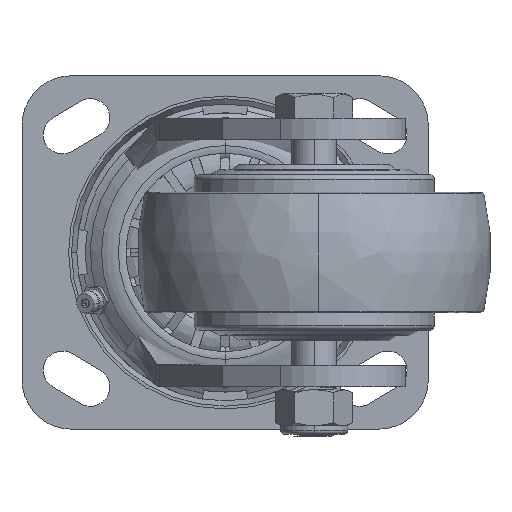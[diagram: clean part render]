
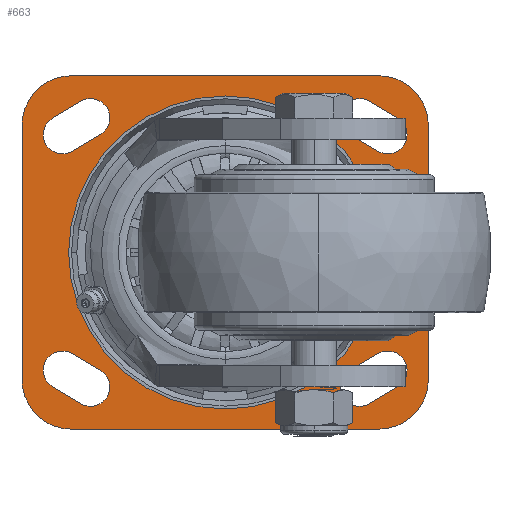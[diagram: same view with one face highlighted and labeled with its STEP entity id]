
A CAD part, front view. The second image highlights one B-rep face of the part: STEP entity #663.
In plain terms, the highlighted planar face has unit normal (0, -1, 0).
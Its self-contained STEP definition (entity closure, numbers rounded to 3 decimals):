
#38=CARTESIAN_POINT('',(0.,-4.5,0.));
#39=DIRECTION('',(0.,-1.,0.));
#40=DIRECTION('',(1.,0.,0.));
#41=AXIS2_PLACEMENT_3D('',#38,#39,#40);
#43=CARTESIAN_POINT('',(0.,-4.5,0.));
#44=DIRECTION('',(0.,-1.,0.));
#45=DIRECTION('',(-1.,0.,0.));
#46=AXIS2_PLACEMENT_3D('',#43,#44,#45);
#48=CARTESIAN_POINT('',(-43.5,-4.5,36.));
#49=DIRECTION('',(0.,-1.,0.));
#50=DIRECTION('',(0.,0.,1.));
#51=AXIS2_PLACEMENT_3D('',#48,#49,#50);
#53=DIRECTION('',(-1.,0.,0.));
#54=VECTOR('',#53,87.);
#55=CARTESIAN_POINT('',(43.5,-4.5,50.));
#56=LINE('',#55,#54);
#57=CARTESIAN_POINT('',(43.5,-4.5,36.));
#58=DIRECTION('',(0.,-1.,0.));
#59=DIRECTION('',(1.,0.,0.));
#60=AXIS2_PLACEMENT_3D('',#57,#58,#59);
#62=DIRECTION('',(0.,0.,1.));
#63=VECTOR('',#62,72.);
#64=CARTESIAN_POINT('',(57.5,-4.5,-36.));
#65=LINE('',#64,#63);
#66=CARTESIAN_POINT('',(43.5,-4.5,-36.));
#67=DIRECTION('',(0.,-1.,0.));
#68=DIRECTION('',(0.,0.,-1.));
#69=AXIS2_PLACEMENT_3D('',#66,#67,#68);
#71=DIRECTION('',(1.,0.,0.));
#72=VECTOR('',#71,87.);
#73=CARTESIAN_POINT('',(-43.5,-4.5,-50.));
#74=LINE('',#73,#72);
#75=CARTESIAN_POINT('',(-43.5,-4.5,-36.));
#76=DIRECTION('',(0.,-1.,0.));
#77=DIRECTION('',(-1.,0.,0.));
#78=AXIS2_PLACEMENT_3D('',#75,#76,#77);
#80=DIRECTION('',(0.,0.,-1.));
#81=VECTOR('',#80,72.);
#82=CARTESIAN_POINT('',(-57.5,-4.5,36.));
#83=LINE('',#82,#81);
#84=CARTESIAN_POINT('',(-46.04,-4.5,-33.34));
#85=DIRECTION('',(0.,1.,0.));
#86=DIRECTION('',(-0.514,0.,-0.858));
#87=AXIS2_PLACEMENT_3D('',#84,#85,#86);
#89=DIRECTION('',(-0.858,0.,0.514));
#90=VECTOR('',#89,9.257);
#91=CARTESIAN_POINT('',(-40.902,-4.5,-42.774));
#92=LINE('',#91,#90);
#93=CARTESIAN_POINT('',(-38.1,-4.5,-38.1));
#94=DIRECTION('',(0.,1.,0.));
#95=DIRECTION('',(0.514,0.,0.858));
#96=AXIS2_PLACEMENT_3D('',#93,#94,#95);
#98=DIRECTION('',(0.858,0.,-0.514));
#99=VECTOR('',#98,9.257);
#100=CARTESIAN_POINT('',(-43.238,-4.5,-28.666));
#101=LINE('',#100,#99);
#102=CARTESIAN_POINT('',(-46.04,-4.5,33.34));
#103=DIRECTION('',(0.,-1.,0.));
#104=DIRECTION('',(-0.514,0.,0.858));
#105=AXIS2_PLACEMENT_3D('',#102,#103,#104);
#107=DIRECTION('',(0.858,0.,0.514));
#108=VECTOR('',#107,9.257);
#109=CARTESIAN_POINT('',(-43.238,-4.5,28.666));
#110=LINE('',#109,#108);
#111=CARTESIAN_POINT('',(-38.1,-4.5,38.1));
#112=DIRECTION('',(0.,-1.,0.));
#113=DIRECTION('',(0.514,0.,-0.858));
#114=AXIS2_PLACEMENT_3D('',#111,#112,#113);
#116=DIRECTION('',(-0.858,0.,-0.514));
#117=VECTOR('',#116,9.257);
#118=CARTESIAN_POINT('',(-40.902,-4.5,42.774));
#119=LINE('',#118,#117);
#120=CARTESIAN_POINT('',(46.04,-4.5,-33.34));
#121=DIRECTION('',(0.,-1.,0.));
#122=DIRECTION('',(0.514,0.,-0.858));
#123=AXIS2_PLACEMENT_3D('',#120,#121,#122);
#125=DIRECTION('',(-0.858,0.,-0.514));
#126=VECTOR('',#125,9.257);
#127=CARTESIAN_POINT('',(43.238,-4.5,-28.666));
#128=LINE('',#127,#126);
#129=CARTESIAN_POINT('',(38.1,-4.5,-38.1));
#130=DIRECTION('',(0.,-1.,0.));
#131=DIRECTION('',(-0.514,0.,0.858));
#132=AXIS2_PLACEMENT_3D('',#129,#130,#131);
#134=DIRECTION('',(0.858,0.,0.514));
#135=VECTOR('',#134,9.257);
#136=CARTESIAN_POINT('',(40.902,-4.5,-42.774));
#137=LINE('',#136,#135);
#138=CARTESIAN_POINT('',(46.04,-4.5,33.34));
#139=DIRECTION('',(0.,1.,0.));
#140=DIRECTION('',(0.514,0.,0.858));
#141=AXIS2_PLACEMENT_3D('',#138,#139,#140);
#143=DIRECTION('',(0.858,0.,-0.514));
#144=VECTOR('',#143,9.257);
#145=CARTESIAN_POINT('',(40.902,-4.5,42.774));
#146=LINE('',#145,#144);
#147=CARTESIAN_POINT('',(38.1,-4.5,38.1));
#148=DIRECTION('',(0.,1.,0.));
#149=DIRECTION('',(-0.514,0.,-0.858));
#150=AXIS2_PLACEMENT_3D('',#147,#148,#149);
#152=DIRECTION('',(-0.858,0.,0.514));
#153=VECTOR('',#152,9.257);
#154=CARTESIAN_POINT('',(43.238,-4.5,28.666));
#155=LINE('',#154,#153);
#482=CARTESIAN_POINT('',(-48.842,-4.5,-38.014));
#483=CARTESIAN_POINT('',(-43.238,-4.5,-28.666));
#484=VERTEX_POINT('',#482);
#485=VERTEX_POINT('',#483);
#486=CARTESIAN_POINT('',(-35.298,-4.5,-33.426));
#487=VERTEX_POINT('',#486);
#488=CARTESIAN_POINT('',(-40.902,-4.5,-42.774));
#489=VERTEX_POINT('',#488);
#490=CARTESIAN_POINT('',(-48.842,-4.5,38.014));
#491=CARTESIAN_POINT('',(-43.238,-4.5,28.666));
#492=VERTEX_POINT('',#490);
#493=VERTEX_POINT('',#491);
#494=CARTESIAN_POINT('',(-35.298,-4.5,33.426));
#495=VERTEX_POINT('',#494);
#496=CARTESIAN_POINT('',(-40.902,-4.5,42.774));
#497=VERTEX_POINT('',#496);
#498=CARTESIAN_POINT('',(48.842,-4.5,-38.014));
#499=CARTESIAN_POINT('',(43.238,-4.5,-28.666));
#500=VERTEX_POINT('',#498);
#501=VERTEX_POINT('',#499);
#502=CARTESIAN_POINT('',(35.298,-4.5,-33.426));
#503=VERTEX_POINT('',#502);
#504=CARTESIAN_POINT('',(40.902,-4.5,-42.774));
#505=VERTEX_POINT('',#504);
#506=CARTESIAN_POINT('',(48.842,-4.5,38.014));
#507=CARTESIAN_POINT('',(43.238,-4.5,28.666));
#508=VERTEX_POINT('',#506);
#509=VERTEX_POINT('',#507);
#510=CARTESIAN_POINT('',(35.298,-4.5,33.426));
#511=VERTEX_POINT('',#510);
#512=CARTESIAN_POINT('',(40.902,-4.5,42.774));
#513=VERTEX_POINT('',#512);
#514=CARTESIAN_POINT('',(-41.639,-4.5,0.));
#515=CARTESIAN_POINT('',(41.639,-4.5,0.));
#516=VERTEX_POINT('',#514);
#517=VERTEX_POINT('',#515);
#562=CARTESIAN_POINT('',(-43.5,-4.5,50.));
#563=CARTESIAN_POINT('',(-57.5,-4.5,36.));
#564=VERTEX_POINT('',#562);
#565=VERTEX_POINT('',#563);
#566=CARTESIAN_POINT('',(57.5,-4.5,36.));
#567=CARTESIAN_POINT('',(43.5,-4.5,50.));
#568=VERTEX_POINT('',#566);
#569=VERTEX_POINT('',#567);
#570=CARTESIAN_POINT('',(43.5,-4.5,-50.));
#571=CARTESIAN_POINT('',(57.5,-4.5,-36.));
#572=VERTEX_POINT('',#570);
#573=VERTEX_POINT('',#571);
#574=CARTESIAN_POINT('',(-57.5,-4.5,-36.));
#575=CARTESIAN_POINT('',(-43.5,-4.5,-50.));
#576=VERTEX_POINT('',#574);
#577=VERTEX_POINT('',#575);
#594=CARTESIAN_POINT('',(0.,-4.5,0.));
#595=DIRECTION('',(0.,-1.,0.));
#596=DIRECTION('',(-1.,0.,0.));
#597=AXIS2_PLACEMENT_3D('',#594,#595,#596);
#598=PLANE('',#597);
#600=ORIENTED_EDGE('',*,*,#599,.F.);
#602=ORIENTED_EDGE('',*,*,#601,.F.);
#604=ORIENTED_EDGE('',*,*,#603,.F.);
#606=ORIENTED_EDGE('',*,*,#605,.F.);
#608=ORIENTED_EDGE('',*,*,#607,.F.);
#610=ORIENTED_EDGE('',*,*,#609,.F.);
#612=ORIENTED_EDGE('',*,*,#611,.F.);
#614=ORIENTED_EDGE('',*,*,#613,.F.);
#615=EDGE_LOOP('',(#600,#602,#604,#606,#608,#610,#612,#614));
#616=FACE_OUTER_BOUND('',#615,.F.);
#618=ORIENTED_EDGE('',*,*,#617,.T.);
#620=ORIENTED_EDGE('',*,*,#619,.T.);
#621=EDGE_LOOP('',(#618,#620));
#622=FACE_BOUND('',#621,.F.);
#624=ORIENTED_EDGE('',*,*,#623,.F.);
#626=ORIENTED_EDGE('',*,*,#625,.F.);
#628=ORIENTED_EDGE('',*,*,#627,.F.);
#630=ORIENTED_EDGE('',*,*,#629,.F.);
#631=EDGE_LOOP('',(#624,#626,#628,#630));
#632=FACE_BOUND('',#631,.F.);
#634=ORIENTED_EDGE('',*,*,#633,.T.);
#636=ORIENTED_EDGE('',*,*,#635,.T.);
#638=ORIENTED_EDGE('',*,*,#637,.T.);
#640=ORIENTED_EDGE('',*,*,#639,.T.);
#641=EDGE_LOOP('',(#634,#636,#638,#640));
#642=FACE_BOUND('',#641,.F.);
#644=ORIENTED_EDGE('',*,*,#643,.T.);
#646=ORIENTED_EDGE('',*,*,#645,.T.);
#648=ORIENTED_EDGE('',*,*,#647,.T.);
#650=ORIENTED_EDGE('',*,*,#649,.T.);
#651=EDGE_LOOP('',(#644,#646,#648,#650));
#652=FACE_BOUND('',#651,.F.);
#654=ORIENTED_EDGE('',*,*,#653,.F.);
#656=ORIENTED_EDGE('',*,*,#655,.F.);
#658=ORIENTED_EDGE('',*,*,#657,.F.);
#660=ORIENTED_EDGE('',*,*,#659,.F.);
#661=EDGE_LOOP('',(#654,#656,#658,#660));
#662=FACE_BOUND('',#661,.F.);
#42=CIRCLE('',#41,41.639);
#47=CIRCLE('',#46,41.639);
#52=CIRCLE('',#51,14.);
#61=CIRCLE('',#60,14.);
#70=CIRCLE('',#69,14.);
#79=CIRCLE('',#78,14.);
#88=CIRCLE('',#87,5.45);
#97=CIRCLE('',#96,5.45);
#106=CIRCLE('',#105,5.45);
#115=CIRCLE('',#114,5.45);
#124=CIRCLE('',#123,5.45);
#133=CIRCLE('',#132,5.45);
#142=CIRCLE('',#141,5.45);
#151=CIRCLE('',#150,5.45);
#599=EDGE_CURVE('',#564,#565,#52,.T.);
#601=EDGE_CURVE('',#569,#564,#56,.T.);
#603=EDGE_CURVE('',#568,#569,#61,.T.);
#605=EDGE_CURVE('',#573,#568,#65,.T.);
#607=EDGE_CURVE('',#572,#573,#70,.T.);
#609=EDGE_CURVE('',#577,#572,#74,.T.);
#611=EDGE_CURVE('',#576,#577,#79,.T.);
#613=EDGE_CURVE('',#565,#576,#83,.T.);
#617=EDGE_CURVE('',#517,#516,#42,.T.);
#619=EDGE_CURVE('',#516,#517,#47,.T.);
#623=EDGE_CURVE('',#484,#485,#88,.T.);
#625=EDGE_CURVE('',#489,#484,#92,.T.);
#627=EDGE_CURVE('',#487,#489,#97,.T.);
#629=EDGE_CURVE('',#485,#487,#101,.T.);
#633=EDGE_CURVE('',#492,#493,#106,.T.);
#635=EDGE_CURVE('',#493,#495,#110,.T.);
#637=EDGE_CURVE('',#495,#497,#115,.T.);
#639=EDGE_CURVE('',#497,#492,#119,.T.);
#643=EDGE_CURVE('',#500,#501,#124,.T.);
#645=EDGE_CURVE('',#501,#503,#128,.T.);
#647=EDGE_CURVE('',#503,#505,#133,.T.);
#649=EDGE_CURVE('',#505,#500,#137,.T.);
#653=EDGE_CURVE('',#508,#509,#142,.T.);
#655=EDGE_CURVE('',#513,#508,#146,.T.);
#657=EDGE_CURVE('',#511,#513,#151,.T.);
#659=EDGE_CURVE('',#509,#511,#155,.T.);
#663=ADVANCED_FACE('',(#616,#622,#632,#642,#652,#662),#598,.T.);
